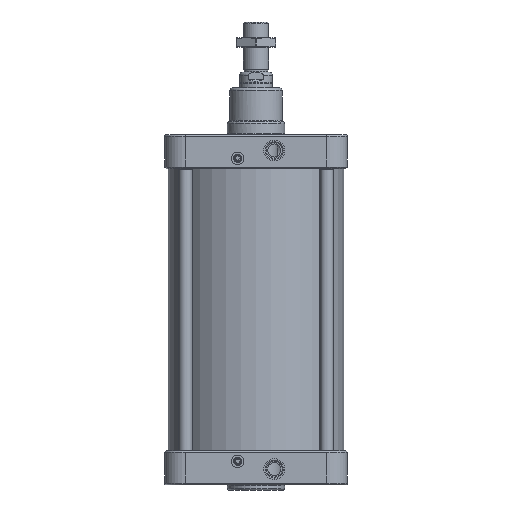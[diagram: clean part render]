
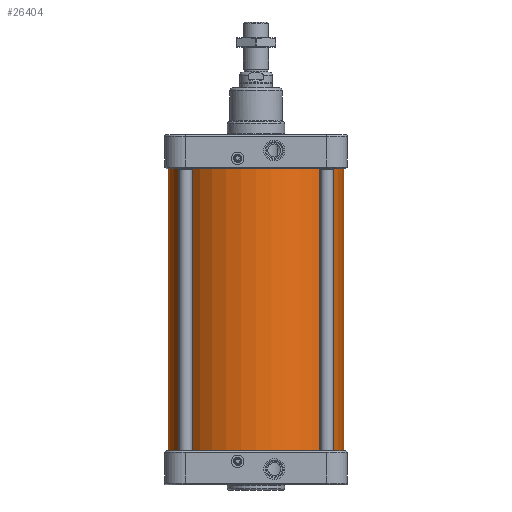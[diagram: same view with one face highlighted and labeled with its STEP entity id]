
A CAD part, front view. The second image highlights one B-rep face of the part: STEP entity #26404.
In plain terms, the highlighted cylindrical face has radius 168 mm (diameter 336 mm), a full revolution.
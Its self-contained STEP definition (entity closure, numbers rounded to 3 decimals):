
#2804=CIRCLE('',#29645,168.);
#2805=CIRCLE('',#29647,168.);
#3478=FACE_BOUND('',#7098,.T.);
#5147=FACE_OUTER_BOUND('',#7097,.T.);
#7097=EDGE_LOOP('',(#22547));
#7098=EDGE_LOOP('',(#22548));
#11979=VERTEX_POINT('',#64759);
#11980=VERTEX_POINT('',#64762);
#15511=EDGE_CURVE('',#11979,#11979,#2804,.T.);
#15512=EDGE_CURVE('',#11980,#11980,#2805,.T.);
#22547=ORIENTED_EDGE('',*,*,#15511,.T.);
#22548=ORIENTED_EDGE('',*,*,#15512,.T.);
#23070=CYLINDRICAL_SURFACE('',#29646,168.);
#26404=ADVANCED_FACE('',(#5147,#3478),#23070,.T.);
#29645=AXIS2_PLACEMENT_3D('',#64760,#36878,#36879);
#29646=AXIS2_PLACEMENT_3D('',#64761,#36880,#36881);
#29647=AXIS2_PLACEMENT_3D('',#64763,#36882,#36883);
#36878=DIRECTION('center_axis',(0.,0.,1.));
#36879=DIRECTION('ref_axis',(-1.,0.,0.));
#36880=DIRECTION('center_axis',(0.,0.,1.));
#36881=DIRECTION('ref_axis',(-1.,0.,0.));
#36882=DIRECTION('center_axis',(0.,0.,-1.));
#36883=DIRECTION('ref_axis',(-1.,0.,0.));
#64759=CARTESIAN_POINT('',(168.,0.,-270.));
#64760=CARTESIAN_POINT('Origin',(0.,0.,-270.));
#64761=CARTESIAN_POINT('Origin',(0.,0.,0.));
#64762=CARTESIAN_POINT('',(168.,0.,270.));
#64763=CARTESIAN_POINT('Origin',(0.,0.,270.));
